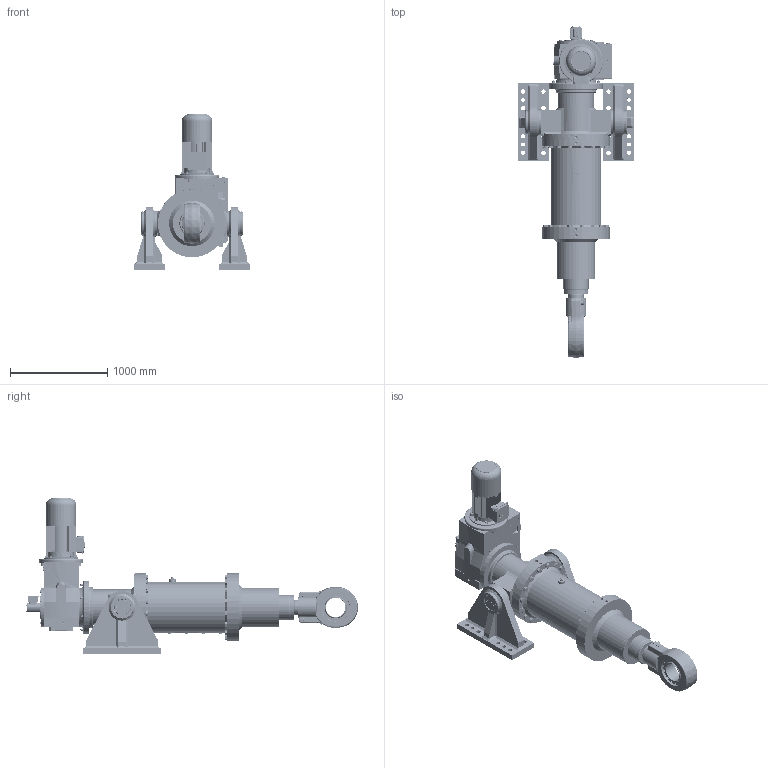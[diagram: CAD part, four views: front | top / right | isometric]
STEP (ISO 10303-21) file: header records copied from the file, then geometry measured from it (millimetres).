
FILE_DESCRIPTION(/* description */ ('Unknown'),/* implementation_level */ '2;1');
FILE_NAME(/* name */ 'K1R12-0600-163-334-1',/* time_stamp */ '2025-07-21T12:58:19+02:00',/* author */ ('Unknown'),/* organization */ ('Unknown'),/* preprocessor_version */ 'ST-DEVELOPER v19.4',/* originating_system */ 'Solid Edge',/* authorisation */ 'Unknown');
FILE_SCHEMA (('AUTOMOTIVE_DESIGN {1 0 10303 214 3 1 1}'));
Products named in the file (15): 163-334-1; 03.01-12; 02.14-12-0600; 03.65-12; 02.01-12-Eis; 01.15-12-0600; 03.02-12-kompl; 04.40-12-Ø550-kompl; 01.01-12-Gelenkkopf Ø200-kompl; 01.74-12; RACO-GG-Klemmenkasten-GZ; 05.51-12-ﾘ400; Gehaeuse_A_ohne_KK; 163-334-1_1; Entlüftung M30
Assembly tree (15 placements, depth 2):
  163-334-1
    03.01-12
    02.14-12-0600
    03.65-12  x2
    02.01-12-Eis
    01.15-12-0600
    03.02-12-kompl
    04.40-12-Ø550-kompl
    01.01-12-Gelenkkopf Ø200-kompl
    01.74-12
    RACO-GG-Klemmenkasten-GZ
    05.51-12-ﾘ400
    Gehaeuse_A_ohne_KK
    163-334-1_1
    Entlüftung M30
Bounding box: 1200 x 3419.5 x 1606.46 mm (x, y, z)
Volume: 743489240 mm3; surface area: 16663900.3 mm2
Topology: 27 solids, 110 shells, 11207 faces, 35749 edges, 23116 vertices
Faces by surface type: plane 9098, cylinder 1093, cone 669, bspline 169, torus 139, sphere 39
Full cylindrical faces by diameter (mm): 1 x24, 1.6 x2, 2 x5, 3 x1, 3.2 x32, 4 x2, 4.02 x4, 5 x15, 5.3 x4, 5.5 x4, 6 x2, 6.917 x6, 7.5 x3, 8.566 x1, 9.1 x3, 9.85 x1, 10 x7, 10.106 x2, 10.5 x1, 12 x2, 12.4 x1, 12.8 x1, 13 x1, 13.3 x1, 13.835 x16, 13.99 x7, 14 x7, 14.5 x1, 15 x2, 16 x24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
Entity records: 448268 total; most frequent: CARTESIAN_POINT 78618, ORIENTED_EDGE 68566, DIRECTION 65583, EDGE_CURVE 34283, VERTEX_POINT 22649, AXIS2_PLACEMENT_3D 22177, LINE 21229, VECTOR 21229
